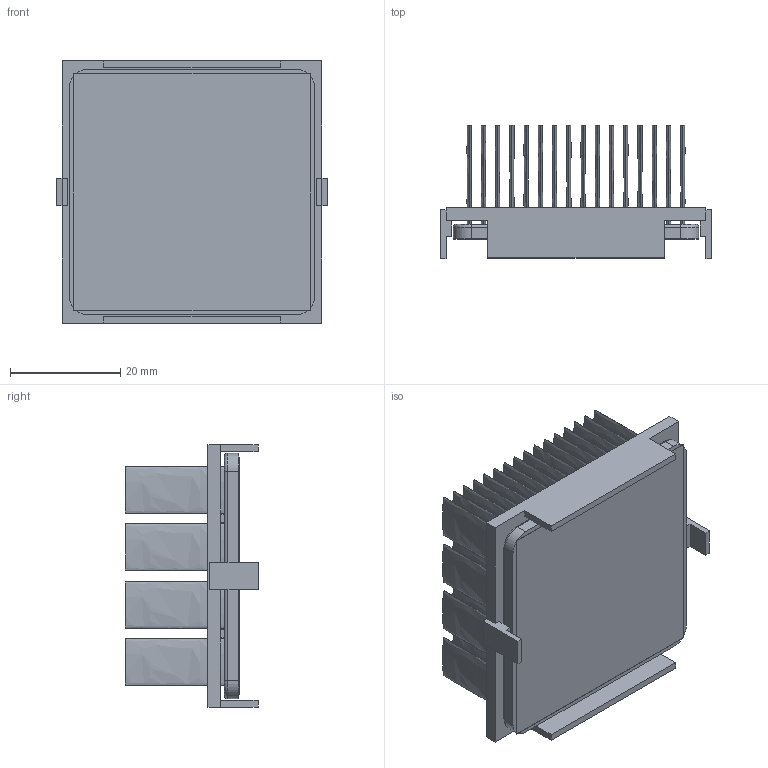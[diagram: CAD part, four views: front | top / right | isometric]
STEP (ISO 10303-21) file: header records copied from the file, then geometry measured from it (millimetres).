
FILE_DESCRIPTION (( 'STEP AP214' ), '1' );
FILE_NAME ('INM45001-21W-2.6Y.STEP', '2023-02-28T00:43:35', ( '' ), ( '' ), 'SwSTEP 2.0', 'SolidWorks 2020', '' );
FILE_SCHEMA (( 'AUTOMOTIVE_DESIGN' ));
Length unit declared in the file: inch
Products named in the file (1): INM45001-21W-2.6Y
Bounding box: 49.2 x 24.2 x 47.7 mm (x, y, z)
Volume: 13754.4 mm3; surface area: 31261 mm2
Topology: 3 solids, 3 shells, 274 faces, 604 edges, 400 vertices
Faces by surface type: plane 134, bspline 128, cylinder 8, torus 4
Entity records: 11396 total; most frequent: CARTESIAN_POINT 2943, ORIENTED_EDGE 1208, DIRECTION 662, EDGE_CURVE 604, VERTEX_POINT 400, EDGE_LOOP 340, VECTOR 328, LINE 328
